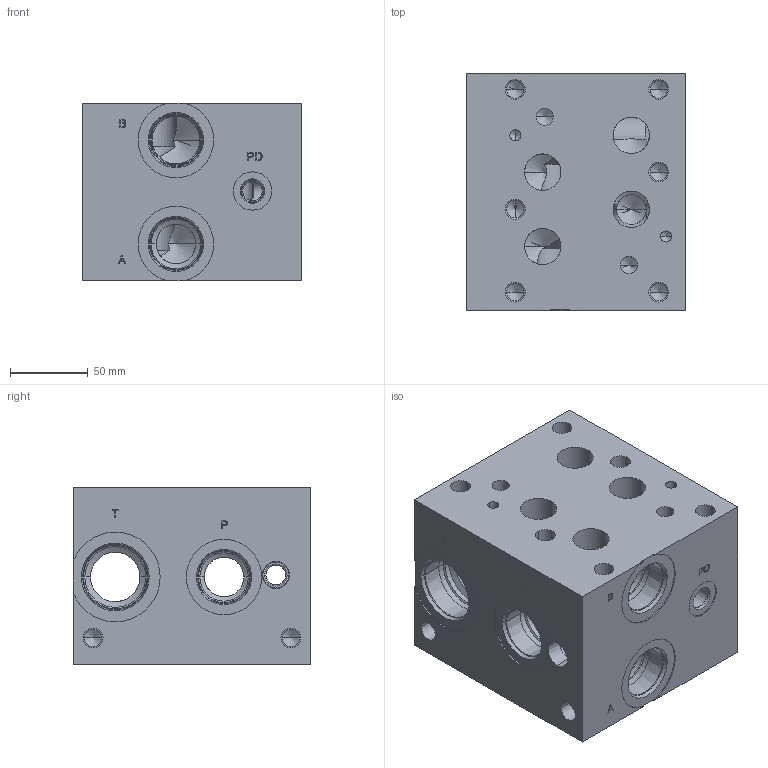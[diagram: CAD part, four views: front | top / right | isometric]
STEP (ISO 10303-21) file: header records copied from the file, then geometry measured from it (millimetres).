
FILE_DESCRIPTION (( 'STEP AP214' ), '1' );
FILE_NAME ('BM-ASP08S5-01-0-Z.STEP', '2020-01-21T14:14:04', ( '' ), ( '' ), 'SwSTEP 2.0', 'SolidWorks 2018', '' );
FILE_SCHEMA (( 'AUTOMOTIVE_DESIGN' ));
Length unit declared in the file: inch
Products named in the file (1): BM-ASP08S5-01-0-Z
Bounding box: 141.22 x 152.4 x 114.3 mm (x, y, z)
Volume: 1968495.2 mm3; surface area: 180679.9 mm2
Topology: 1 solids, 1 shells, 411 faces, 1000 edges, 588 vertices
Faces by surface type: cylinder 137, cone 136, plane 100, bspline 38
Entity records: 17845 total; most frequent: CARTESIAN_POINT 4637, ORIENTED_EDGE 1924, DIRECTION 1888, EDGE_CURVE 962, AXIS2_PLACEMENT_3D 681, VERTEX_POINT 588, VECTOR 526, LINE 526
